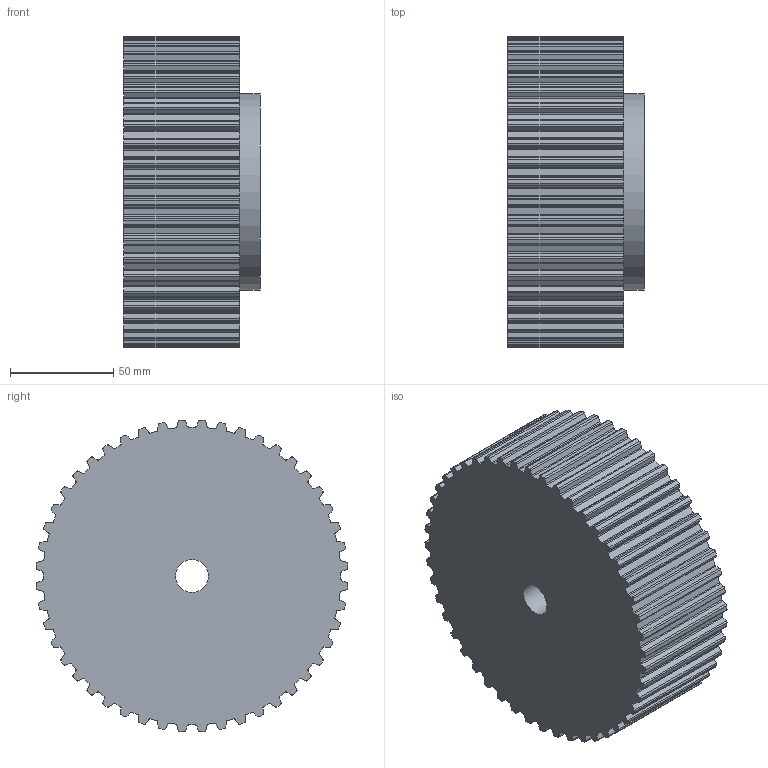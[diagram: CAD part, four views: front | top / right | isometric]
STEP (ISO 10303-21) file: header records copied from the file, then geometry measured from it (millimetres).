
FILE_DESCRIPTION( ( 'STEP AP203' ), '1' );
FILE_NAME( 'C:/Users/Stangenbergd/Documents/CAD_Step/1/16454800.stp', '2020-09-13T08:50:03', ( 'License CC BY-ND 4.0' ), ( 'CADENAS' ), ' ', 'PARTsolutions', ' ' );
FILE_SCHEMA( ( 'CONFIG_CONTROL_DESIGN' ) );
Length unit declared in the file: millimetre
Products named in the file (1): _16454800
Bounding box: 66 x 150.73 x 150.73 mm (x, y, z)
Volume: 1010560.4 mm3; surface area: 77560.5 mm2
Topology: 1 solids, 1 shells, 389 faces, 1158 edges, 772 vertices
Faces by surface type: cylinder 242, plane 147
Full cylindrical faces by diameter (mm): 16 x1, 95 x1
Entity records: 13294 total; most frequent: DIRECTION 2420, CARTESIAN_POINT 2318, ORIENTED_EDGE 2312, EDGE_CURVE 1156, AXIS2_PLACEMENT_3D 874, VERTEX_POINT 772, LINE 672, VECTOR 672
